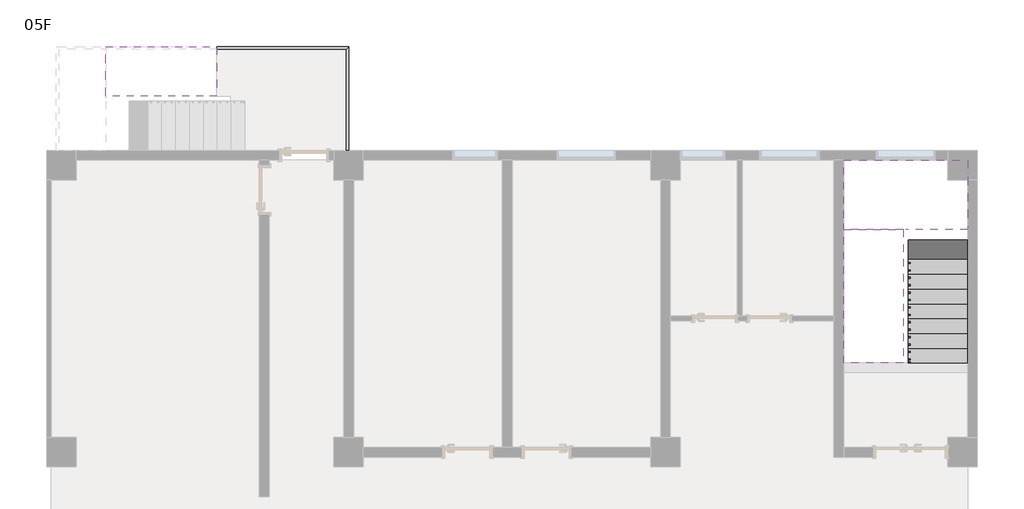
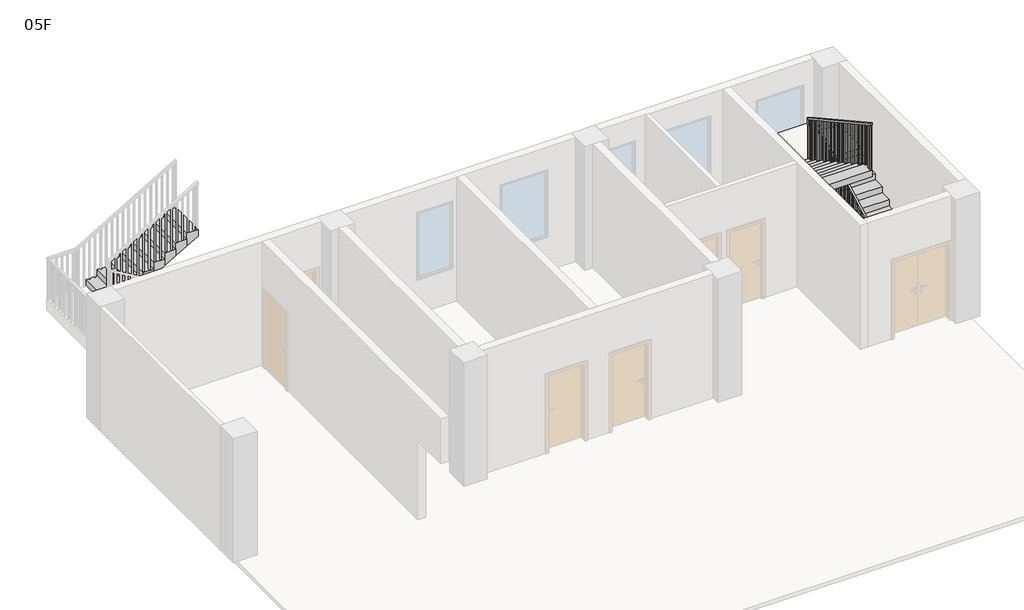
# One storey, part 3 of 3: 3 stair flights, 2 railings, 1 slab.
"""IFC4 building model written with IfcOpenShell, lengths in millimetres."""

from ifc_helpers import new_model, si_unit, frame, origin, place, context, project, spatial, polyline, outline, extrude, faceted_brep, element, save

model = new_model("IFC4")

# Units and contexts
model_context = context("Model", 3, world=origin())
ifc_project = project(units=[si_unit("LENGTHUNIT", "METRE", prefix="MILLI")], contexts=[model_context])

# Site, building, storey
site = spatial("IfcSite", under=ifc_project)
building = spatial("IfcBuilding", under=site)
storey = spatial("IfcBuildingStorey", under=building, Name="05F", Elevation=13800.0)

# Railings
placement = place(None, origin())
element("IfcRailing", 1, ObjectType="1100mm", at=placement, inside=storey, context=model_context, shape_type="SolidModel", body=[
    faceted_brep([(17300.4, 9300.0, 15065.0), (17300.4, 9300.0, 15007.9364389), (17350.4, 9300.0, 15007.9364389), (17350.4, 9300.0, 15065.0), (17300.4, 11925.4, 16508.97), (17300.4, 11975.4, 16479.4064389), (17350.4, 11975.4, 16479.4064389), (17350.4, 11925.4, 16508.97), (17300.4, 11925.4, 16550.0), (17300.4, 11975.4, 16500.0), (17350.4, 11975.4, 16500.0), (17350.4, 11925.4, 16550.0), (17300.4, 12000.4, 16550.0), (17300.4, 12000.4, 16500.0), (17350.4, 12050.4, 16500.0), (17350.4, 12050.4, 16550.0), (17225.4, 12000.4, 16550.0), (17225.4, 12000.4, 16500.0), (17225.4, 12050.4, 16500.0), (17225.4, 12050.4, 16550.0), (17199.6, 12000.4, 16550.0), (17199.6, 12050.4, 16550.0), (17149.6, 12050.4, 16500.0), (17149.6, 12000.4, 16500.0)], [[[0, 1, 2, 3]], [[1, 0, 4, 5]], [[2, 1, 5, 6]], [[3, 2, 6, 7]], [[0, 3, 7, 4]], [[5, 4, 8, 9]], [[6, 5, 9, 10]], [[7, 6, 10, 11]], [[4, 7, 11, 8]], [[9, 8, 12, 13]], [[10, 9, 13, 14]], [[11, 10, 14, 15]], [[8, 11, 15, 12]], [[13, 12, 16, 17]], [[14, 13, 17, 18]], [[15, 14, 18, 19]], [[12, 15, 19, 16]], [[20, 21, 22, 23]], [[17, 16, 20, 23]], [[18, 17, 23, 22]], [[19, 18, 22, 21]], [[16, 19, 21, 20]]]),
    faceted_brep([(17199.6, 12000.4, 16550.0), (17149.6, 12000.4, 16500.0), (17149.6, 12050.4, 16500.0), (17199.6, 12050.4, 16550.0), (17199.6, 12000.4, 16657.7164389), (17199.6, 12050.4, 16687.28), (17149.6, 12050.4, 16687.28), (17149.6, 12000.4, 16657.7164389)], [[[0, 1, 2, 3]], [[4, 5, 6, 7]], [[1, 0, 4, 7]], [[2, 1, 7, 6]], [[3, 2, 6, 5]], [[0, 3, 5, 4]]]),
    faceted_brep([(17199.6, 12050.4, 16687.28), (17199.6, 12000.4, 16657.7164389), (17149.6, 12000.4, 16657.7164389), (17149.6, 12050.4, 16687.28), (17199.6, 9300.0, 18200.0), (17149.6, 9300.0, 18200.0), (17149.6, 9300.0, 18142.9364389), (17199.6, 9300.0, 18142.9364389)], [[[0, 1, 2, 3]], [[4, 5, 6, 7]], [[1, 0, 4, 7]], [[2, 1, 7, 6]], [[3, 2, 6, 5]], [[0, 3, 5, 4]]]),
    extrude(outline(polyline([(9412.9, 16935.0), (9387.9, 16935.0), (9387.9, 18094.5914389), (9412.9, 18080.8414389), (9412.9, 16935.0)])), frame((17162.1, 0.0, 0.0), z_axis=(1.0, 0.0, 0.0), x_axis=(0.0, 1.0, 0.0)), (0.0, 0.0, 1.0), 25.0),
    extrude(outline(polyline([(9562.9, 16935.0), (9537.9, 16935.0), (9537.9, 18012.0914389), (9562.9, 17998.3414389), (9562.9, 16935.0)])), frame((17162.1, 0.0, 0.0), z_axis=(1.0, 0.0, 0.0), x_axis=(0.0, 1.0, 0.0)), (0.0, 0.0, 1.0), 25.0),
    extrude(outline(polyline([(9712.9, 16770.0), (9687.9, 16770.0), (9687.9, 17929.5914389), (9712.9, 17915.8414389), (9712.9, 16770.0)])), frame((17162.1, 0.0, 0.0), z_axis=(1.0, 0.0, 0.0), x_axis=(0.0, 1.0, 0.0)), (0.0, 0.0, 1.0), 25.0),
    extrude(outline(polyline([(9862.9, 16770.0), (9837.9, 16770.0), (9837.9, 17847.0914389), (9862.9, 17833.3414389), (9862.9, 16770.0)])), frame((17162.1, 0.0, 0.0), z_axis=(1.0, 0.0, 0.0), x_axis=(0.0, 1.0, 0.0)), (0.0, 0.0, 1.0), 25.0),
    extrude(outline(polyline([(10012.9, 16605.0), (9987.9, 16605.0), (9987.9, 17764.5914389), (10012.9, 17750.8414389), (10012.9, 16605.0)])), frame((17162.1, 0.0, 0.0), z_axis=(1.0, 0.0, 0.0), x_axis=(0.0, 1.0, 0.0)), (0.0, 0.0, 1.0), 25.0),
    extrude(outline(polyline([(10162.9, 16605.0), (10137.9, 16605.0), (10137.9, 17682.0914389), (10162.9, 17668.3414389), (10162.9, 16605.0)])), frame((17162.1, 0.0, 0.0), z_axis=(1.0, 0.0, 0.0), x_axis=(0.0, 1.0, 0.0)), (0.0, 0.0, 1.0), 25.0),
    extrude(outline(polyline([(10312.9, 16440.0), (10287.9, 16440.0), (10287.9, 17599.5914389), (10312.9, 17585.8414389), (10312.9, 16440.0)])), frame((17162.1, 0.0, 0.0), z_axis=(1.0, 0.0, 0.0), x_axis=(0.0, 1.0, 0.0)), (0.0, 0.0, 1.0), 25.0),
    extrude(outline(polyline([(10462.9, 16440.0), (10437.9, 16440.0), (10437.9, 17517.0914389), (10462.9, 17503.3414389), (10462.9, 16440.0)])), frame((17162.1, 0.0, 0.0), z_axis=(1.0, 0.0, 0.0), x_axis=(0.0, 1.0, 0.0)), (0.0, 0.0, 1.0), 25.0),
    extrude(outline(polyline([(10612.9, 16275.0), (10587.9, 16275.0), (10587.9, 17434.5914389), (10612.9, 17420.8414389), (10612.9, 16275.0)])), frame((17162.1, 0.0, 0.0), z_axis=(1.0, 0.0, 0.0), x_axis=(0.0, 1.0, 0.0)), (0.0, 0.0, 1.0), 25.0),
    extrude(outline(polyline([(10762.9, 16275.0), (10737.9, 16275.0), (10737.9, 17352.0914389), (10762.9, 17338.3414389), (10762.9, 16275.0)])), frame((17162.1, 0.0, 0.0), z_axis=(1.0, 0.0, 0.0), x_axis=(0.0, 1.0, 0.0)), (0.0, 0.0, 1.0), 25.0),
    extrude(outline(polyline([(10912.9, 16110.0), (10887.9, 16110.0), (10887.9, 17269.5914389), (10912.9, 17255.8414389), (10912.9, 16110.0)])), frame((17162.1, 0.0, 0.0), z_axis=(1.0, 0.0, 0.0), x_axis=(0.0, 1.0, 0.0)), (0.0, 0.0, 1.0), 25.0),
    extrude(outline(polyline([(11062.9, 16110.0), (11037.9, 16110.0), (11037.9, 17187.0914389), (11062.9, 17173.3414389), (11062.9, 16110.0)])), frame((17162.1, 0.0, 0.0), z_axis=(1.0, 0.0, 0.0), x_axis=(0.0, 1.0, 0.0)), (0.0, 0.0, 1.0), 25.0),
    extrude(outline(polyline([(11212.9, 15945.0), (11187.9, 15945.0), (11187.9, 17104.5914389), (11212.9, 17090.8414389), (11212.9, 15945.0)])), frame((17162.1, 0.0, 0.0), z_axis=(1.0, 0.0, 0.0), x_axis=(0.0, 1.0, 0.0)), (0.0, 0.0, 1.0), 25.0),
    extrude(outline(polyline([(11362.9, 15945.0), (11337.9, 15945.0), (11337.9, 17022.0914389), (11362.9, 17008.3414389), (11362.9, 15945.0)])), frame((17162.1, 0.0, 0.0), z_axis=(1.0, 0.0, 0.0), x_axis=(0.0, 1.0, 0.0)), (0.0, 0.0, 1.0), 25.0),
    extrude(outline(polyline([(11512.9, 15780.0), (11487.9, 15780.0), (11487.9, 16939.5914389), (11512.9, 16925.8414389), (11512.9, 15780.0)])), frame((17162.1, 0.0, 0.0), z_axis=(1.0, 0.0, 0.0), x_axis=(0.0, 1.0, 0.0)), (0.0, 0.0, 1.0), 25.0),
    extrude(outline(polyline([(11662.9, 15780.0), (11637.9, 15780.0), (11637.9, 16857.0914389), (11662.9, 16843.3414389), (11662.9, 15780.0)])), frame((17162.1, 0.0, 0.0), z_axis=(1.0, 0.0, 0.0), x_axis=(0.0, 1.0, 0.0)), (0.0, 0.0, 1.0), 25.0),
    extrude(outline(polyline([(11812.9, 15615.0), (11787.9, 15615.0), (11787.9, 16774.5914389), (11812.9, 16760.8414389), (11812.9, 15615.0)])), frame((17162.1, 0.0, 0.0), z_axis=(1.0, 0.0, 0.0), x_axis=(0.0, 1.0, 0.0)), (0.0, 0.0, 1.0), 25.0),
    extrude(outline(polyline([(11962.9, 15615.0), (11937.9, 15615.0), (11937.9, 16692.0914389), (11962.9, 16678.3414389), (11962.9, 15615.0)])), frame((17162.1, 0.0, 0.0), z_axis=(1.0, 0.0, 0.0), x_axis=(0.0, 1.0, 0.0)), (0.0, 0.0, 1.0), 25.0),
    extrude(outline(polyline([(17262.9, 12012.9), (17237.9, 12012.9), (17237.9, 12037.9), (17262.9, 12037.9), (17262.9, 12012.9)])), frame((0.0, 0.0, 15450.0), z_axis=(0.0, 0.0, 1.0), x_axis=(1.0, 0.0, 0.0)), (0.0, 0.0, 1.0), 1050.0),
    extrude(outline(polyline([(11912.5, 16444.8114389), (11937.5, 16458.5614389), (11937.5, 15285.0), (11912.5, 15285.0), (11912.5, 16444.8114389)])), frame((17312.9, 0.0, 0.0), z_axis=(1.0, 0.0, 0.0), x_axis=(0.0, 1.0, 0.0)), (0.0, 0.0, 1.0), 25.0),
    extrude(outline(polyline([(11762.5, 16362.3114389), (11787.5, 16376.0614389), (11787.5, 15285.0), (11762.5, 15285.0), (11762.5, 16362.3114389)])), frame((17312.9, 0.0, 0.0), z_axis=(1.0, 0.0, 0.0), x_axis=(0.0, 1.0, 0.0)), (0.0, 0.0, 1.0), 25.0),
    extrude(outline(polyline([(11612.5, 16279.8114389), (11637.5, 16293.5614389), (11637.5, 15120.0), (11612.5, 15120.0), (11612.5, 16279.8114389)])), frame((17312.9, 0.0, 0.0), z_axis=(1.0, 0.0, 0.0), x_axis=(0.0, 1.0, 0.0)), (0.0, 0.0, 1.0), 25.0),
    extrude(outline(polyline([(11462.5, 16197.3114389), (11487.5, 16211.0614389), (11487.5, 15120.0), (11462.5, 15120.0), (11462.5, 16197.3114389)])), frame((17312.9, 0.0, 0.0), z_axis=(1.0, 0.0, 0.0), x_axis=(0.0, 1.0, 0.0)), (0.0, 0.0, 1.0), 25.0),
    extrude(outline(polyline([(11312.5, 16114.8114389), (11337.5, 16128.5614389), (11337.5, 14955.0), (11312.5, 14955.0), (11312.5, 16114.8114389)])), frame((17312.9, 0.0, 0.0), z_axis=(1.0, 0.0, 0.0), x_axis=(0.0, 1.0, 0.0)), (0.0, 0.0, 1.0), 25.0),
    extrude(outline(polyline([(11162.5, 16032.3114389), (11187.5, 16046.0614389), (11187.5, 14955.0), (11162.5, 14955.0), (11162.5, 16032.3114389)])), frame((17312.9, 0.0, 0.0), z_axis=(1.0, 0.0, 0.0), x_axis=(0.0, 1.0, 0.0)), (0.0, 0.0, 1.0), 25.0),
    extrude(outline(polyline([(11012.5, 15949.8114389), (11037.5, 15963.5614389), (11037.5, 14790.0), (11012.5, 14790.0), (11012.5, 15949.8114389)])), frame((17312.9, 0.0, 0.0), z_axis=(1.0, 0.0, 0.0), x_axis=(0.0, 1.0, 0.0)), (0.0, 0.0, 1.0), 25.0),
    extrude(outline(polyline([(10862.5, 15867.3114389), (10887.5, 15881.0614389), (10887.5, 14790.0), (10862.5, 14790.0), (10862.5, 15867.3114389)])), frame((17312.9, 0.0, 0.0), z_axis=(1.0, 0.0, 0.0), x_axis=(0.0, 1.0, 0.0)), (0.0, 0.0, 1.0), 25.0),
    extrude(outline(polyline([(10712.5, 15784.8114389), (10737.5, 15798.5614389), (10737.5, 14625.0), (10712.5, 14625.0), (10712.5, 15784.8114389)])), frame((17312.9, 0.0, 0.0), z_axis=(1.0, 0.0, 0.0), x_axis=(0.0, 1.0, 0.0)), (0.0, 0.0, 1.0), 25.0),
    extrude(outline(polyline([(10562.5, 15702.3114389), (10587.5, 15716.0614389), (10587.5, 14625.0), (10562.5, 14625.0), (10562.5, 15702.3114389)])), frame((17312.9, 0.0, 0.0), z_axis=(1.0, 0.0, 0.0), x_axis=(0.0, 1.0, 0.0)), (0.0, 0.0, 1.0), 25.0),
    extrude(outline(polyline([(10412.5, 15619.8114389), (10437.5, 15633.5614389), (10437.5, 14460.0), (10412.5, 14460.0), (10412.5, 15619.8114389)])), frame((17312.9, 0.0, 0.0), z_axis=(1.0, 0.0, 0.0), x_axis=(0.0, 1.0, 0.0)), (0.0, 0.0, 1.0), 25.0),
    extrude(outline(polyline([(10262.5, 15537.3114389), (10287.5, 15551.0614389), (10287.5, 14460.0), (10262.5, 14460.0), (10262.5, 15537.3114389)])), frame((17312.9, 0.0, 0.0), z_axis=(1.0, 0.0, 0.0), x_axis=(0.0, 1.0, 0.0)), (0.0, 0.0, 1.0), 25.0),
    extrude(outline(polyline([(10112.5, 15454.8114389), (10137.5, 15468.5614389), (10137.5, 14295.0), (10112.5, 14295.0), (10112.5, 15454.8114389)])), frame((17312.9, 0.0, 0.0), z_axis=(1.0, 0.0, 0.0), x_axis=(0.0, 1.0, 0.0)), (0.0, 0.0, 1.0), 25.0),
    extrude(outline(polyline([(9962.5, 15372.3114389), (9987.5, 15386.0614389), (9987.5, 14295.0), (9962.5, 14295.0), (9962.5, 15372.3114389)])), frame((17312.9, 0.0, 0.0), z_axis=(1.0, 0.0, 0.0), x_axis=(0.0, 1.0, 0.0)), (0.0, 0.0, 1.0), 25.0),
    extrude(outline(polyline([(9812.5, 15289.8114389), (9837.5, 15303.5614389), (9837.5, 14130.0), (9812.5, 14130.0), (9812.5, 15289.8114389)])), frame((17312.9, 0.0, 0.0), z_axis=(1.0, 0.0, 0.0), x_axis=(0.0, 1.0, 0.0)), (0.0, 0.0, 1.0), 25.0),
    extrude(outline(polyline([(9662.5, 15207.3114389), (9687.5, 15221.0614389), (9687.5, 14130.0), (9662.5, 14130.0), (9662.5, 15207.3114389)])), frame((17312.9, 0.0, 0.0), z_axis=(1.0, 0.0, 0.0), x_axis=(0.0, 1.0, 0.0)), (0.0, 0.0, 1.0), 25.0),
    extrude(outline(polyline([(9512.5, 15124.8114389), (9537.5, 15138.5614389), (9537.5, 13965.0), (9512.5, 13965.0), (9512.5, 15124.8114389)])), frame((17312.9, 0.0, 0.0), z_axis=(1.0, 0.0, 0.0), x_axis=(0.0, 1.0, 0.0)), (0.0, 0.0, 1.0), 25.0),
    extrude(outline(polyline([(9362.5, 15042.3114389), (9387.5, 15056.0614389), (9387.5, 13965.0), (9362.5, 13965.0), (9362.5, 15042.3114389)])), frame((17312.9, 0.0, 0.0), z_axis=(1.0, 0.0, 0.0), x_axis=(0.0, 1.0, 0.0)), (0.0, 0.0, 1.0), 25.0),
    extrude(outline(polyline([(17187.1, 12037.9), (17187.1, 12012.9), (17162.1, 12012.9), (17162.1, 12037.9), (17187.1, 12037.9)])), frame((0.0, 0.0, 15450.0), z_axis=(0.0, 0.0, 1.0), x_axis=(1.0, 0.0, 0.0)), (0.0, 0.0, 1.0), 1050.0),
    extrude(outline(polyline([(17312.9, 12012.9), (17312.9, 12037.9), (17337.9, 12037.9), (17337.9, 12012.9), (17312.9, 12012.9)])), frame((0.0, 0.0, 15450.0), z_axis=(0.0, 0.0, 1.0), x_axis=(1.0, 0.0, 0.0)), (0.0, 0.0, 1.0), 1050.0),
    extrude(outline(polyline([(17312.9, 11987.5), (17312.9, 12012.5), (17337.9, 12012.5), (17337.9, 11987.5), (17312.9, 11987.5)])), frame((0.0, 0.0, 15450.0), z_axis=(0.0, 0.0, 1.0), x_axis=(1.0, 0.0, 0.0)), (0.0, 0.0, 1.0), 1050.0),
    extrude(outline(polyline([(9325.0, 16935.0), (9300.0, 16935.0), (9300.0, 18142.9364389), (9325.0, 18129.1864389), (9325.0, 16935.0)])), frame((17162.1, 0.0, 0.0), z_axis=(1.0, 0.0, 0.0), x_axis=(0.0, 1.0, 0.0)), (0.0, 0.0, 1.0), 25.0),
    extrude(outline(polyline([(9300.0, 15007.9364389), (9325.0, 15021.6864389), (9325.0, 13965.0), (9300.0, 13965.0), (9300.0, 15007.9364389)])), frame((17312.9, 0.0, 0.0), z_axis=(1.0, 0.0, 0.0), x_axis=(0.0, 1.0, 0.0)), (0.0, 0.0, 1.0), 25.0),
])
element("IfcRailing", 2, ObjectType="1100mm", at=placement, inside=storey, context=model_context, shape_type="SolidModel", body=[
    faceted_brep([(3340.0, 15699.6, 14900.0), (3340.0, 15699.6, 14850.0), (3340.0, 15649.6, 14850.0), (3340.0, 15649.6, 14900.0), (6000.0, 15699.6, 14900.0), (6000.0, 15699.6, 14850.0), (5950.0, 15649.6, 14850.0), (5950.0, 15649.6, 14900.0), (6000.0, 13600.0, 14900.0), (5950.0, 13600.0, 14900.0), (5950.0, 13600.0, 14850.0), (6000.0, 13600.0, 14850.0)], [[[0, 1, 2, 3]], [[1, 0, 4, 5]], [[2, 1, 5, 6]], [[3, 2, 6, 7]], [[0, 3, 7, 4]], [[8, 9, 10, 11]], [[5, 4, 8, 11]], [[6, 5, 11, 10]], [[7, 6, 10, 9]], [[4, 7, 9, 8]]]),
    extrude(outline(polyline([(5962.5, 13762.1), (5987.5, 13762.1), (5987.5, 13737.1), (5962.5, 13737.1), (5962.5, 13762.1)])), frame((0.0, 0.0, 13800.0), z_axis=(0.0, 0.0, 1.0), x_axis=(1.0, 0.0, 0.0)), (0.0, 0.0, 1.0), 1050.0),
    extrude(outline(polyline([(5962.5, 14037.1), (5987.5, 14037.1), (5987.5, 14012.1), (5962.5, 14012.1), (5962.5, 14037.1)])), frame((0.0, 0.0, 13800.0), z_axis=(0.0, 0.0, 1.0), x_axis=(1.0, 0.0, 0.0)), (0.0, 0.0, 1.0), 1050.0),
    extrude(outline(polyline([(5962.5, 14312.1), (5987.5, 14312.1), (5987.5, 14287.1), (5962.5, 14287.1), (5962.5, 14312.1)])), frame((0.0, 0.0, 13800.0), z_axis=(0.0, 0.0, 1.0), x_axis=(1.0, 0.0, 0.0)), (0.0, 0.0, 1.0), 1050.0),
    extrude(outline(polyline([(5962.5, 14587.1), (5987.5, 14587.1), (5987.5, 14562.1), (5962.5, 14562.1), (5962.5, 14587.1)])), frame((0.0, 0.0, 13800.0), z_axis=(0.0, 0.0, 1.0), x_axis=(1.0, 0.0, 0.0)), (0.0, 0.0, 1.0), 1050.0),
    extrude(outline(polyline([(5962.5, 14862.1), (5987.5, 14862.1), (5987.5, 14837.1), (5962.5, 14837.1), (5962.5, 14862.1)])), frame((0.0, 0.0, 13800.0), z_axis=(0.0, 0.0, 1.0), x_axis=(1.0, 0.0, 0.0)), (0.0, 0.0, 1.0), 1050.0),
    extrude(outline(polyline([(5962.5, 15137.1), (5987.5, 15137.1), (5987.5, 15112.1), (5962.5, 15112.1), (5962.5, 15137.1)])), frame((0.0, 0.0, 13800.0), z_axis=(0.0, 0.0, 1.0), x_axis=(1.0, 0.0, 0.0)), (0.0, 0.0, 1.0), 1050.0),
    extrude(outline(polyline([(5962.5, 15412.1), (5987.5, 15412.1), (5987.5, 15387.1), (5962.5, 15387.1), (5962.5, 15412.1)])), frame((0.0, 0.0, 13800.0), z_axis=(0.0, 0.0, 1.0), x_axis=(1.0, 0.0, 0.0)), (0.0, 0.0, 1.0), 1050.0),
    extrude(outline(polyline([(5802.5, 15662.1), (5802.5, 15687.1), (5827.5, 15687.1), (5827.5, 15662.1), (5802.5, 15662.1)])), frame((0.0, 0.0, 13800.0), z_axis=(0.0, 0.0, 1.0), x_axis=(1.0, 0.0, 0.0)), (0.0, 0.0, 1.0), 1050.0),
    extrude(outline(polyline([(5527.5, 15662.1), (5527.5, 15687.1), (5552.5, 15687.1), (5552.5, 15662.1), (5527.5, 15662.1)])), frame((0.0, 0.0, 13800.0), z_axis=(0.0, 0.0, 1.0), x_axis=(1.0, 0.0, 0.0)), (0.0, 0.0, 1.0), 1050.0),
    extrude(outline(polyline([(5252.5, 15662.1), (5252.5, 15687.1), (5277.5, 15687.1), (5277.5, 15662.1), (5252.5, 15662.1)])), frame((0.0, 0.0, 13800.0), z_axis=(0.0, 0.0, 1.0), x_axis=(1.0, 0.0, 0.0)), (0.0, 0.0, 1.0), 1050.0),
    extrude(outline(polyline([(4977.5, 15662.1), (4977.5, 15687.1), (5002.5, 15687.1), (5002.5, 15662.1), (4977.5, 15662.1)])), frame((0.0, 0.0, 13800.0), z_axis=(0.0, 0.0, 1.0), x_axis=(1.0, 0.0, 0.0)), (0.0, 0.0, 1.0), 1050.0),
    extrude(outline(polyline([(4702.5, 15662.1), (4702.5, 15687.1), (4727.5, 15687.1), (4727.5, 15662.1), (4702.5, 15662.1)])), frame((0.0, 0.0, 13800.0), z_axis=(0.0, 0.0, 1.0), x_axis=(1.0, 0.0, 0.0)), (0.0, 0.0, 1.0), 1050.0),
    extrude(outline(polyline([(4427.5, 15662.1), (4427.5, 15687.1), (4452.5, 15687.1), (4452.5, 15662.1), (4427.5, 15662.1)])), frame((0.0, 0.0, 13800.0), z_axis=(0.0, 0.0, 1.0), x_axis=(1.0, 0.0, 0.0)), (0.0, 0.0, 1.0), 1050.0),
    extrude(outline(polyline([(4152.5, 15662.1), (4152.5, 15687.1), (4177.5, 15687.1), (4177.5, 15662.1), (4152.5, 15662.1)])), frame((0.0, 0.0, 13800.0), z_axis=(0.0, 0.0, 1.0), x_axis=(1.0, 0.0, 0.0)), (0.0, 0.0, 1.0), 1050.0),
    extrude(outline(polyline([(3877.5, 15662.1), (3877.5, 15687.1), (3902.5, 15687.1), (3902.5, 15662.1), (3877.5, 15662.1)])), frame((0.0, 0.0, 13800.0), z_axis=(0.0, 0.0, 1.0), x_axis=(1.0, 0.0, 0.0)), (0.0, 0.0, 1.0), 1050.0),
    extrude(outline(polyline([(3602.5, 15662.1), (3602.5, 15687.1), (3627.5, 15687.1), (3627.5, 15662.1), (3602.5, 15662.1)])), frame((0.0, 0.0, 13800.0), z_axis=(0.0, 0.0, 1.0), x_axis=(1.0, 0.0, 0.0)), (0.0, 0.0, 1.0), 1050.0),
    extrude(outline(polyline([(5962.5, 15662.1), (5962.5, 15687.1), (5987.5, 15687.1), (5987.5, 15662.1), (5962.5, 15662.1)])), frame((0.0, 0.0, 13800.0), z_axis=(0.0, 0.0, 1.0), x_axis=(1.0, 0.0, 0.0)), (0.0, 0.0, 1.0), 1050.0),
    extrude(outline(polyline([(5962.5, 13625.0), (5987.5, 13625.0), (5987.5, 13600.0), (5962.5, 13600.0), (5962.5, 13625.0)])), frame((0.0, 0.0, 13800.0), z_axis=(0.0, 0.0, 1.0), x_axis=(1.0, 0.0, 0.0)), (0.0, 0.0, 1.0), 1050.0),
    extrude(outline(polyline([(3340.0, 15662.1), (3340.0, 15687.1), (3365.0, 15687.1), (3365.0, 15662.1), (3340.0, 15662.1)])), frame((0.0, 0.0, 13800.0), z_axis=(0.0, 0.0, 1.0), x_axis=(1.0, 0.0, 0.0)), (0.0, 0.0, 1.0), 1050.0),
])

# Slab
element("IfcSlab", 3, ObjectType="300mm 厚度", at=placement, inside=storey, context=model_context, shape_type="Brep", body=[
    faceted_brep([(17300.0, 12000.0, 15450.0), (18500.0, 12000.0, 15450.0), (18500.0, 12065.8012421, 15450.0), (18500.0, 13400.0, 15450.0), (16000.0, 13400.0, 15450.0), (16000.0, 12234.1987579, 15450.0), (16000.0, 12000.0, 15450.0), (17200.0, 12000.0, 15450.0), (17300.0, 12000.0, 15150.0), (17300.0, 12000.0, 15113.8093168), (18500.0, 12000.0, 15113.8093168), (18500.0, 12000.0, 15285.0), (18500.0, 12065.8012421, 15150.0), (18500.0, 13400.0, 15150.0), (16000.0, 13400.0, 15150.0), (16000.0, 12234.1987579, 15150.0), (16000.0, 12000.0, 15278.8093168), (17200.0, 12000.0, 15278.8093168), (17200.0, 12000.0, 15150.0), (17200.0, 12234.1987579, 15150.0), (17300.0, 12065.8012421, 15150.0)], [[[0, 1, 2, 3, 4, 5, 6, 7]], [[1, 0, 8, 9, 10, 11]], [[1, 11, 10, 12, 13, 3, 2]], [[4, 3, 13, 14]], [[4, 14, 15, 16, 6, 5]], [[7, 6, 16, 17]], [[0, 7, 17, 18, 8]], [[18, 19, 15, 14, 13, 12, 20, 8]], [[19, 18, 17]], [[20, 12, 10, 9]], [[8, 20, 9]], [[15, 19, 17, 16]]]),
])

# Stair flights
element("IfcStairFlight", 4, ObjectType="150mm 结构深度", at=placement, inside=storey, context=model_context, shape_type="Brep", body=[
    faceted_brep([(17300.0, 9600.0, 13965.0), (17300.0, 9300.0, 13965.0), (18500.0, 9300.0, 13965.0), (18500.0, 9600.0, 13965.0), (17300.0, 9600.0, 13800.0), (17300.0, 9300.0, 13800.0), (18500.0, 9300.0, 13800.0), (18500.0, 9600.0, 13800.0), (17300.0, 9900.0, 14130.0), (17300.0, 9600.0, 14130.0), (18500.0, 9600.0, 14130.0), (18500.0, 9900.0, 14130.0), (17300.0, 9900.0, 13958.8093168), (17300.0, 9611.2557876, 13800.0), (18500.0, 9611.2557876, 13800.0), (18500.0, 9900.0, 13958.8093168), (17300.0, 10200.0, 14295.0), (17300.0, 9900.0, 14295.0), (18500.0, 9900.0, 14295.0), (18500.0, 10200.0, 14295.0), (17300.0, 10200.0, 14123.8093168), (18500.0, 10200.0, 14123.8093168), (17300.0, 10500.0, 14460.0), (17300.0, 10200.0, 14460.0), (18500.0, 10200.0, 14460.0), (18500.0, 10500.0, 14460.0), (17300.0, 10500.0, 14288.8093168), (18500.0, 10500.0, 14288.8093168), (17300.0, 10800.0, 14625.0), (17300.0, 10500.0, 14625.0), (18500.0, 10500.0, 14625.0), (18500.0, 10800.0, 14625.0), (17300.0, 10800.0, 14453.8093168), (18500.0, 10800.0, 14453.8093168), (17300.0, 11100.0, 14790.0), (17300.0, 10800.0, 14790.0), (18500.0, 10800.0, 14790.0), (18500.0, 11100.0, 14790.0), (17300.0, 11100.0, 14618.8093168), (18500.0, 11100.0, 14618.8093168), (17300.0, 11400.0, 14955.0), (17300.0, 11100.0, 14955.0), (18500.0, 11100.0, 14955.0), (18500.0, 11400.0, 14955.0), (17300.0, 11400.0, 14783.8093168), (18500.0, 11400.0, 14783.8093168), (17300.0, 11700.0, 15120.0), (17300.0, 11400.0, 15120.0), (18500.0, 11400.0, 15120.0), (18500.0, 11700.0, 15120.0), (17300.0, 11700.0, 14948.8093168), (18500.0, 11700.0, 14948.8093168), (17300.0, 12000.0, 15285.0), (17300.0, 11700.0, 15285.0), (18500.0, 11700.0, 15285.0), (18500.0, 12000.0, 15285.0), (17300.0, 12000.0, 15150.0), (17300.0, 12000.0, 15113.8093168), (18500.0, 12000.0, 15113.8093168)], [[[0, 1, 2, 3]], [[1, 0, 4, 5]], [[2, 1, 5, 6]], [[3, 2, 6, 7]], [[8, 9, 10, 11]], [[4, 0, 9, 8, 12, 13]], [[0, 3, 10, 9]], [[3, 7, 14, 15, 11, 10]], [[16, 17, 18, 19]], [[17, 16, 20, 12, 8]], [[8, 11, 18, 17]], [[19, 18, 11, 15, 21]], [[22, 23, 24, 25]], [[23, 22, 26, 20, 16]], [[16, 19, 24, 23]], [[25, 24, 19, 21, 27]], [[28, 29, 30, 31]], [[29, 28, 32, 26, 22]], [[22, 25, 30, 29]], [[31, 30, 25, 27, 33]], [[34, 35, 36, 37]], [[35, 34, 38, 32, 28]], [[28, 31, 36, 35]], [[37, 36, 31, 33, 39]], [[40, 41, 42, 43]], [[41, 40, 44, 38, 34]], [[34, 37, 42, 41]], [[43, 42, 37, 39, 45]], [[46, 47, 48, 49]], [[47, 46, 50, 44, 40]], [[40, 43, 48, 47]], [[49, 48, 43, 45, 51]], [[52, 53, 54, 55]], [[53, 52, 56, 57, 50, 46]], [[46, 49, 54, 53]], [[55, 54, 49, 51, 58]], [[52, 55, 58, 57, 56]], [[5, 4, 13, 14, 7, 6]], [[14, 13, 12, 20, 26, 32, 38, 44, 50, 57, 58, 51, 45, 39, 33, 27, 21, 15]]]),
])
element("IfcStairFlight", 5, ObjectType="150mm 结构深度", at=placement, inside=storey, context=model_context, shape_type="Brep", body=[
    faceted_brep([(17200.0, 11700.0, 15615.0), (17200.0, 12000.0, 15615.0), (16000.0, 12000.0, 15615.0), (16000.0, 11700.0, 15615.0), (17200.0, 11700.0, 15443.8093168), (17200.0, 12000.0, 15278.8093168), (16000.0, 12000.0, 15278.8093168), (16000.0, 12000.0, 15450.0), (16000.0, 11700.0, 15443.8093168), (17200.0, 11400.0, 15780.0), (17200.0, 11700.0, 15780.0), (16000.0, 11700.0, 15780.0), (16000.0, 11400.0, 15780.0), (17200.0, 11400.0, 15608.8093168), (16000.0, 11400.0, 15608.8093168), (17200.0, 11100.0, 15945.0), (17200.0, 11400.0, 15945.0), (16000.0, 11400.0, 15945.0), (16000.0, 11100.0, 15945.0), (17200.0, 11100.0, 15773.8093168), (16000.0, 11100.0, 15773.8093168), (17200.0, 10800.0, 16110.0), (17200.0, 11100.0, 16110.0), (16000.0, 11100.0, 16110.0), (16000.0, 10800.0, 16110.0), (17200.0, 10800.0, 15938.8093168), (16000.0, 10800.0, 15938.8093168), (17200.0, 10500.0, 16275.0), (17200.0, 10800.0, 16275.0), (16000.0, 10800.0, 16275.0), (16000.0, 10500.0, 16275.0), (17200.0, 10500.0, 16103.8093168), (16000.0, 10500.0, 16103.8093168), (17200.0, 10200.0, 16440.0), (17200.0, 10500.0, 16440.0), (16000.0, 10500.0, 16440.0), (16000.0, 10200.0, 16440.0), (17200.0, 10200.0, 16268.8093168), (16000.0, 10200.0, 16268.8093168), (17200.0, 9900.0, 16605.0), (17200.0, 10200.0, 16605.0), (16000.0, 10200.0, 16605.0), (16000.0, 9900.0, 16605.0), (17200.0, 9900.0, 16433.8093168), (16000.0, 9900.0, 16433.8093168), (17200.0, 9600.0, 16770.0), (17200.0, 9900.0, 16770.0), (16000.0, 9900.0, 16770.0), (16000.0, 9600.0, 16770.0), (17200.0, 9600.0, 16598.8093168), (16000.0, 9600.0, 16598.8093168), (17200.0, 9300.0, 16935.0), (17200.0, 9600.0, 16935.0), (16000.0, 9600.0, 16935.0), (16000.0, 9300.0, 16935.0), (17200.0, 9300.0, 16763.8093168), (16000.0, 9300.0, 16763.8093168)], [[[0, 1, 2, 3]], [[1, 0, 4, 5]], [[2, 1, 5, 6, 7]], [[3, 2, 7, 6, 8]], [[9, 10, 11, 12]], [[10, 9, 13, 4, 0]], [[11, 10, 0, 3]], [[12, 11, 3, 8, 14]], [[15, 16, 17, 18]], [[16, 15, 19, 13, 9]], [[17, 16, 9, 12]], [[18, 17, 12, 14, 20]], [[21, 22, 23, 24]], [[22, 21, 25, 19, 15]], [[23, 22, 15, 18]], [[24, 23, 18, 20, 26]], [[27, 28, 29, 30]], [[28, 27, 31, 25, 21]], [[29, 28, 21, 24]], [[30, 29, 24, 26, 32]], [[33, 34, 35, 36]], [[34, 33, 37, 31, 27]], [[35, 34, 27, 30]], [[36, 35, 30, 32, 38]], [[39, 40, 41, 42]], [[40, 39, 43, 37, 33]], [[41, 40, 33, 36]], [[42, 41, 36, 38, 44]], [[45, 46, 47, 48]], [[46, 45, 49, 43, 39]], [[47, 46, 39, 42]], [[48, 47, 42, 44, 50]], [[51, 52, 53, 54]], [[52, 51, 55, 49, 45]], [[53, 52, 45, 48]], [[54, 53, 48, 50, 56]], [[51, 54, 56, 55]], [[5, 4, 13, 19, 25, 31, 37, 43, 49, 55, 56, 50, 44, 38, 32, 26, 20, 14, 8, 6]]]),
])
element("IfcStairFlight", 6, ObjectType="150mm 结构深度", at=placement, inside=storey, context=model_context, shape_type="Brep", body=[
    faceted_brep([(1380.0, 15700.0, 15780.0), (1100.0, 15700.0, 15780.0), (1100.0, 14700.0, 15780.0), (1380.0, 14700.0, 15780.0), (1380.0, 15700.0, 15605.8928571), (1100.0, 15700.0, 15440.8928571), (1100.0, 15700.0, 15615.0), (1100.0, 14700.0, 15440.8928571), (1380.0, 14700.0, 15605.8928571), (1660.0, 15700.0, 15945.0), (1380.0, 15700.0, 15945.0), (1380.0, 14700.0, 15945.0), (1660.0, 14700.0, 15945.0), (1660.0, 15700.0, 15770.8928571), (1660.0, 14700.0, 15770.8928571), (1940.0, 15700.0, 16110.0), (1660.0, 15700.0, 16110.0), (1660.0, 14700.0, 16110.0), (1940.0, 14700.0, 16110.0), (1940.0, 15700.0, 15935.8928571), (1940.0, 14700.0, 15935.8928571), (2220.0, 15700.0, 16275.0), (1940.0, 15700.0, 16275.0), (1940.0, 14700.0, 16275.0), (2220.0, 14700.0, 16275.0), (2220.0, 15700.0, 16100.8928571), (2220.0, 14700.0, 16100.8928571), (2500.0, 15700.0, 16440.0), (2220.0, 15700.0, 16440.0), (2220.0, 14700.0, 16440.0), (2500.0, 14700.0, 16440.0), (2500.0, 15700.0, 16265.8928571), (2500.0, 14700.0, 16265.8928571), (2780.0, 15700.0, 16605.0), (2500.0, 15700.0, 16605.0), (2500.0, 14700.0, 16605.0), (2780.0, 14700.0, 16605.0), (2780.0, 15700.0, 16430.8928571), (2780.0, 14700.0, 16430.8928571), (3060.0, 15700.0, 16770.0), (2780.0, 15700.0, 16770.0), (2780.0, 14700.0, 16770.0), (3060.0, 14700.0, 16770.0), (3060.0, 15700.0, 16595.8928571), (3060.0, 14700.0, 16595.8928571), (3340.0, 15700.0, 16935.0), (3060.0, 15700.0, 16935.0), (3060.0, 14700.0, 16935.0), (3340.0, 14700.0, 16935.0), (3340.0, 15700.0, 16760.8928571), (3340.0, 14700.0, 16760.8928571)], [[[0, 1, 2, 3]], [[1, 0, 4, 5, 6]], [[2, 1, 6, 5, 7]], [[3, 2, 7, 8]], [[9, 10, 11, 12]], [[10, 9, 13, 4, 0]], [[11, 10, 0, 3]], [[12, 11, 3, 8, 14]], [[15, 16, 17, 18]], [[16, 15, 19, 13, 9]], [[17, 16, 9, 12]], [[18, 17, 12, 14, 20]], [[21, 22, 23, 24]], [[22, 21, 25, 19, 15]], [[23, 22, 15, 18]], [[24, 23, 18, 20, 26]], [[27, 28, 29, 30]], [[28, 27, 31, 25, 21]], [[29, 28, 21, 24]], [[30, 29, 24, 26, 32]], [[33, 34, 35, 36]], [[34, 33, 37, 31, 27]], [[35, 34, 27, 30]], [[36, 35, 30, 32, 38]], [[39, 40, 41, 42]], [[40, 39, 43, 37, 33]], [[41, 40, 33, 36]], [[42, 41, 36, 38, 44]], [[45, 46, 47, 48]], [[46, 45, 49, 43, 39]], [[47, 46, 39, 42]], [[48, 47, 42, 44, 50]], [[45, 48, 50, 49]], [[5, 4, 13, 19, 25, 31, 37, 43, 49, 50, 44, 38, 32, 26, 20, 14, 8, 7]]]),
])

save(model, "model.ifc")
